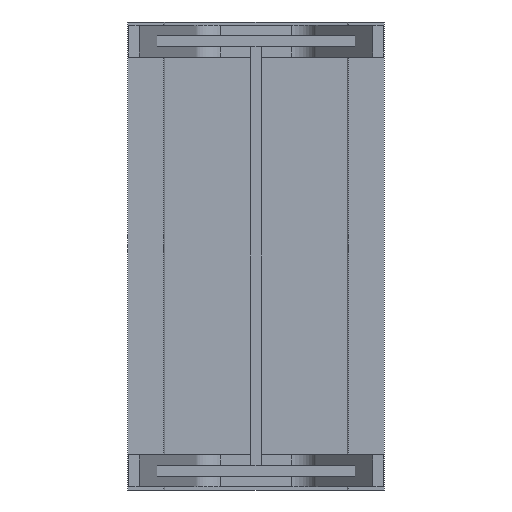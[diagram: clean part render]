
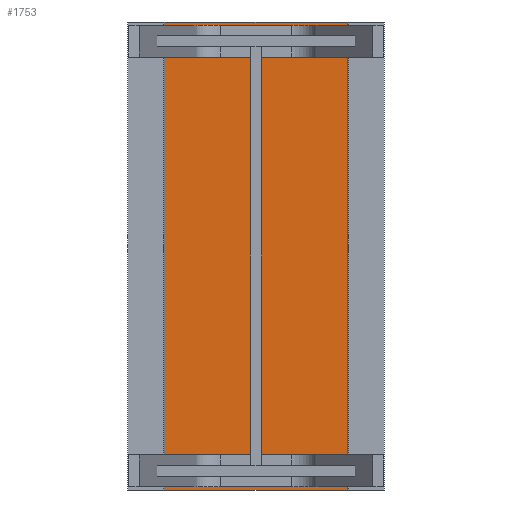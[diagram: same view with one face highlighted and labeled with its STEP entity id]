
A CAD part, front view. The second image highlights one B-rep face of the part: STEP entity #1753.
In plain terms, the highlighted planar face has unit normal (0, -1, 0).
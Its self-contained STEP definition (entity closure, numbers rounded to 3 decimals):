
#31 = CARTESIAN_POINT ( 'NONE',  ( -272.5, 710., -700. ) ) ;
#120 = CARTESIAN_POINT ( 'NONE',  ( 272.5, 710., -700. ) ) ;
#220 = DIRECTION ( 'NONE',  ( 0., 0., 1. ) ) ;
#253 = EDGE_CURVE ( 'NONE', #1359, #534, #1829, .T. ) ;
#256 = LINE ( 'NONE', #747, #1083 ) ;
#274 = PLANE ( 'NONE',  #1312 ) ;
#327 = VERTEX_POINT ( 'NONE', #1643 ) ;
#434 = CARTESIAN_POINT ( 'NONE',  ( -272.5, 710., -700. ) ) ;
#481 = CARTESIAN_POINT ( 'NONE',  ( 272.5, 710., 700. ) ) ;
#528 = DIRECTION ( 'NONE',  ( -1., 0., 0. ) ) ;
#534 = VERTEX_POINT ( 'NONE', #481 ) ;
#683 = VECTOR ( 'NONE', #220, 1000. ) ;
#747 = CARTESIAN_POINT ( 'NONE',  ( -272.5, 710., -700. ) ) ;
#775 = EDGE_CURVE ( 'NONE', #1359, #782, #875, .T. ) ;
#782 = VERTEX_POINT ( 'NONE', #1670 ) ;
#851 = DIRECTION ( 'NONE',  ( -1., 0., 0. ) ) ;
#866 = VECTOR ( 'NONE', #851, 1000. ) ;
#875 = LINE ( 'NONE', #31, #920 ) ;
#878 = CARTESIAN_POINT ( 'NONE',  ( 272.5, 710., -700. ) ) ;
#920 = VECTOR ( 'NONE', #1667, 1000. ) ;
#943 = LINE ( 'NONE', #1401, #866 ) ;
#1068 = EDGE_CURVE ( 'NONE', #782, #327, #256, .T. ) ;
#1075 = EDGE_CURVE ( 'NONE', #534, #327, #943, .T. ) ;
#1083 = VECTOR ( 'NONE', #1794, 1000. ) ;
#1152 = ORIENTED_EDGE ( 'NONE', *, *, #1068, .F. ) ;
#1189 = ORIENTED_EDGE ( 'NONE', *, *, #775, .F. ) ;
#1191 = ORIENTED_EDGE ( 'NONE', *, *, #253, .T. ) ;
#1217 = ORIENTED_EDGE ( 'NONE', *, *, #1075, .T. ) ;
#1261 = EDGE_LOOP ( 'NONE', ( #1152, #1189, #1191, #1217 ) ) ;
#1294 = FACE_OUTER_BOUND ( 'NONE', #1261, .T. ) ;
#1312 = AXIS2_PLACEMENT_3D ( 'NONE', #434, #1489, #528 ) ;
#1359 = VERTEX_POINT ( 'NONE', #878 ) ;
#1401 = CARTESIAN_POINT ( 'NONE',  ( -272.5, 710., 700. ) ) ;
#1489 = DIRECTION ( 'NONE',  ( 0., 1., 0. ) ) ;
#1643 = CARTESIAN_POINT ( 'NONE',  ( -272.5, 710., 700. ) ) ;
#1667 = DIRECTION ( 'NONE',  ( -1., 0., 0. ) ) ;
#1670 = CARTESIAN_POINT ( 'NONE',  ( -272.5, 710., -700. ) ) ;
#1753 = ADVANCED_FACE ( 'NONE', ( #1294 ), #274, .F. ) ;
#1794 = DIRECTION ( 'NONE',  ( 0., 0., 1. ) ) ;
#1829 = LINE ( 'NONE', #120, #683 ) ;
